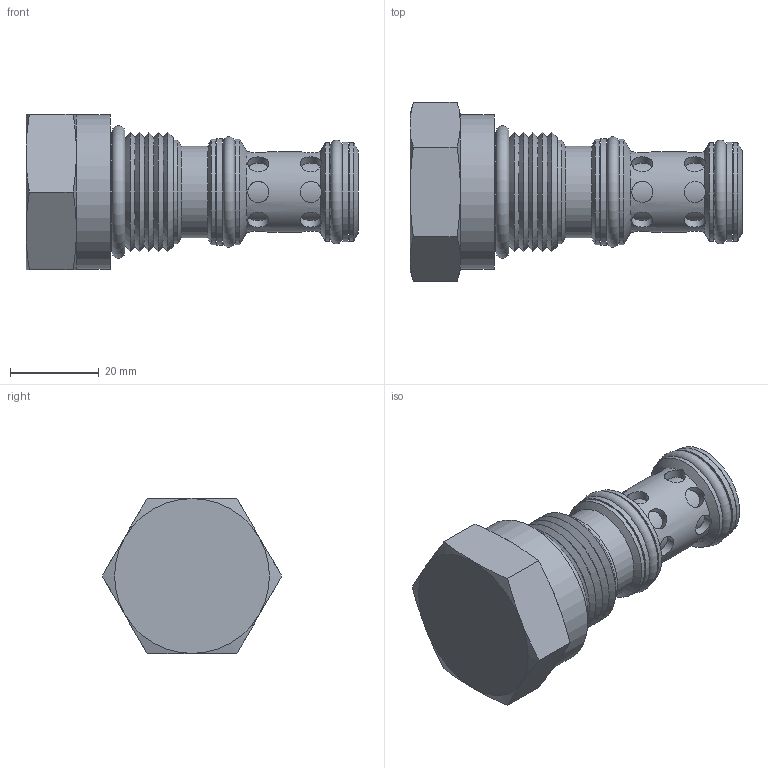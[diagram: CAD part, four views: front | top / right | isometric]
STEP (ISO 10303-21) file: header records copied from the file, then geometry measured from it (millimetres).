
FILE_DESCRIPTION((''),'2;1');
FILE_NAME('Q:\Delta CADD Insertion Codes\3D Solid models\Mechanical Valves\STEP\TRPCC00.stp','2012-06-04T11:57:42',('Dan'),(''),'Autodesk Inventor 2012','Autodesk Inventor 2012','');
FILE_SCHEMA(('AUTOMOTIVE_DESIGN { 1 0 10303 214 1 1 1 1 }'));
Length unit declared in the file: inch
Products named in the file (7): Assembly7; Part62; Part64; Part66; Part68; Part70; Part72
Assembly tree (6 placements, depth 2):
  Assembly7
    Part62
    Part64
    Part66
    Part68
    Part70
    Part72
Bounding box: 74.88 x 40.47 x 35.05 mm (x, y, z)
Volume: 37995.9 mm3; surface area: 13365.9 mm2
Topology: 6 solids, 6 shells, 92 faces, 190 edges, 119 vertices
Faces by surface type: cylinder 50, plane 21, cone 17, torus 4
Full cylindrical faces by diameter (mm): 1.524 x1, 4.775 x16, 9.525 x1, 14.295 x1, 18.085 x1, 18.136 x1, 18.237 x1, 19.66 x1, 19.71 x1, 20.625 x1, 22.149 x2, 22.454 x1, 23.419 x1, 23.724 x2, 24.003 x1, 24.028 x1, 34.925 x1
Entity records: 3300 total; most frequent: CARTESIAN_POINT 1513, DIRECTION 338, ORIENTED_EDGE 240, AXIS2_PLACEMENT_3D 166, EDGE_LOOP 165, EDGE_CURVE 120, VERTEX_POINT 103, FACE_OUTER_BOUND 92
